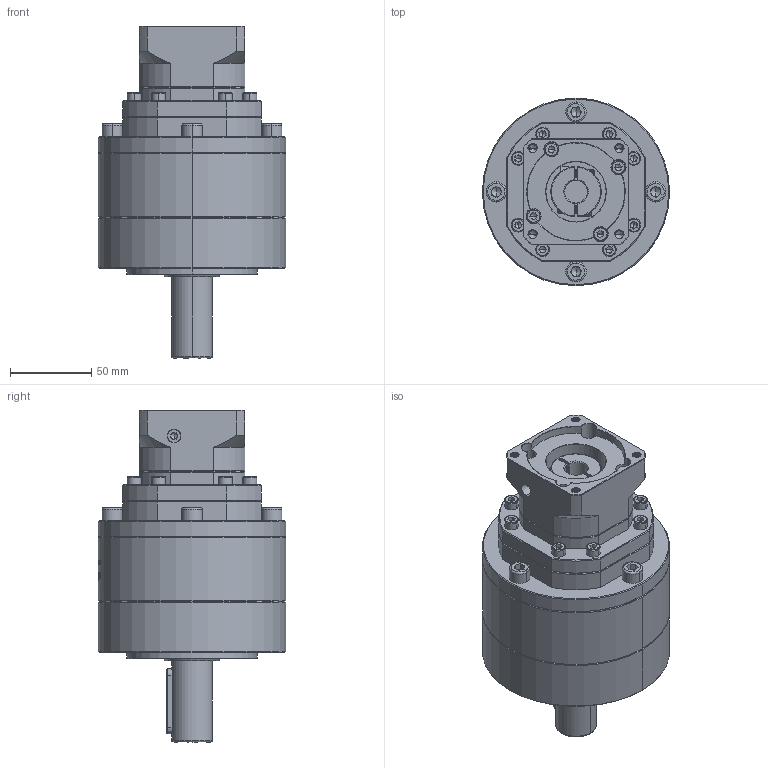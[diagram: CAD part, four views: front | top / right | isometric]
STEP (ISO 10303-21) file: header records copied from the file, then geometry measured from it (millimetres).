
FILE_DESCRIPTION (( 'STEP AP214' ), '1' );
FILE_NAME ('ZE120A-D25-L3-14-60-75-M6.step', '2023-03-09T15:31:46', ( '' ), ( 'Microsoft' ), 'SwSTEP 2.0', 'SolidWorks 2016', '' );
FILE_SCHEMA (( 'AUTOMOTIVE_DESIGN' ));
Length unit declared in the file: millimetre
Products named in the file (1): ZE120A-D25-L3-14-60-75-M6
Bounding box: 115 x 115 x 204 mm (x, y, z)
Volume: 1145920.7 mm3; surface area: 111178.6 mm2
Topology: 7 solids, 7 shells, 2171 faces, 5750 edges, 3677 vertices
Faces by surface type: plane 981, cylinder 520, bspline 349, cone 299, torus 22
Entity records: 121050 total; most frequent: CARTESIAN_POINT 47861, ORIENTED_EDGE 11376, DIRECTION 8782, EDGE_CURVE 5688, VERTEX_POINT 3677, VECTOR 3050, LINE 3050, AXIS2_PLACEMENT_3D 2866
